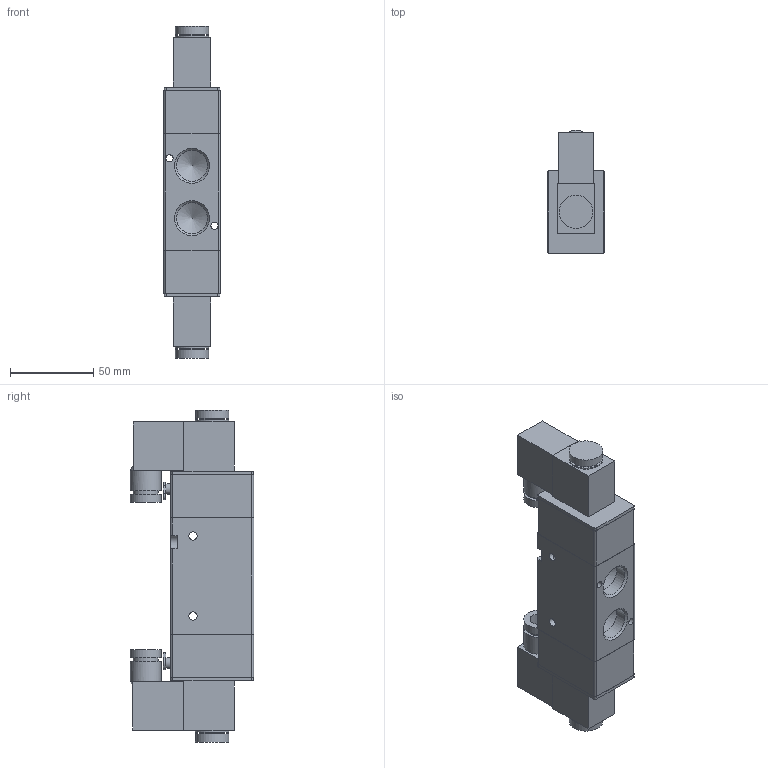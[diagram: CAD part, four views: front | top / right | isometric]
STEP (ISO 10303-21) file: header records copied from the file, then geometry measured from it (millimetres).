
FILE_DESCRIPTION( ( 'STEP AP214' ), '1' );
FILE_NAME( 'C:/Users/EMC02301/Desktop/RV3/RV3242-15E4.stp', '2026-07-31T11:11:01', ( 'License CC BY-ND 4.0' ), ( 'CADENAS' ), ' ', 'PARTsolutions', ' ' );
FILE_SCHEMA( ( 'AUTOMOTIVE_DESIGN { 1 0 10303 214 1 1 1 1 }' ) );
Length unit declared in the file: millimetre
Products named in the file (2): RV3242-15E4; _RV3242-15E4-body
Assembly tree (1 placements, depth 2):
  RV3242-15E4
    _RV3242-15E4-body
Bounding box: 34 x 74.2 x 199.4 mm (x, y, z)
Volume: 290407.9 mm3; surface area: 45963.3 mm2
Topology: 1 solids, 1 shells, 133 faces, 323 edges, 215 vertices
Faces by surface type: plane 74, cylinder 51, cone 8
Full cylindrical faces by diameter (mm): 4.3 x2, 5 x2, 6.5 x2, 10.8 x2, 15 x4, 18.6 x4, 18.631 x3, 20 x4
Entity records: 4924 total; most frequent: CARTESIAN_POINT 772, DIRECTION 652, ORIENTED_EDGE 558, EDGE_CURVE 279, AXIS2_PLACEMENT_3D 242, VERTEX_POINT 204, EDGE_LOOP 198, LINE 168
